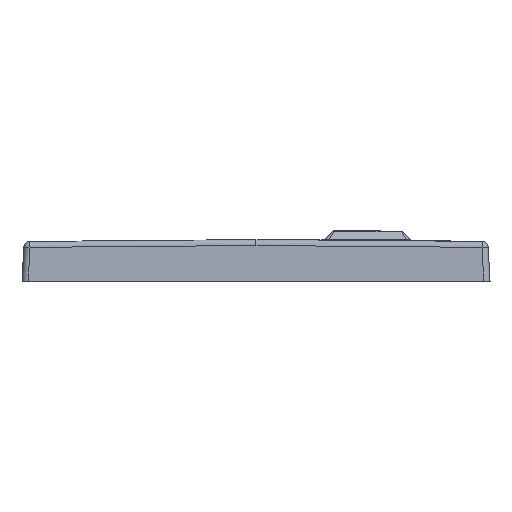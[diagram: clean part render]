
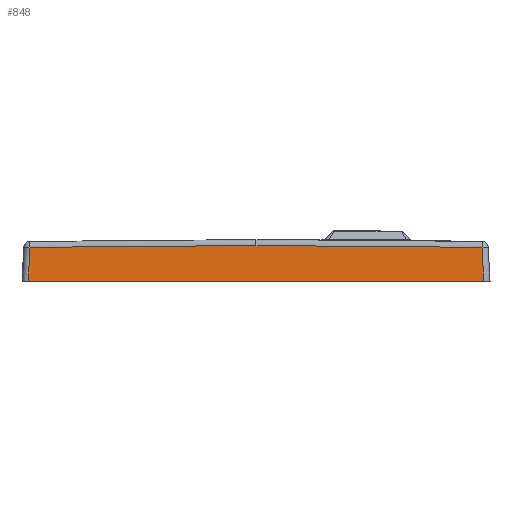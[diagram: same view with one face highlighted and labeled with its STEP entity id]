
A CAD part, left-side view. The second image highlights one B-rep face of the part: STEP entity #848.
In plain terms, the highlighted planar face has unit normal (-0.999, 0, 0.052).
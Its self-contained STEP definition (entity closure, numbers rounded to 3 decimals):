
#84 = VERTEX_POINT ( 'NONE', #3267 ) ;
#166 = EDGE_CURVE ( 'NONE', #4345, #1781, #1874, .T. ) ;
#288 = EDGE_CURVE ( 'NONE', #2720, #1755, #2706, .T. ) ;
#476 = CARTESIAN_POINT ( 'NONE',  ( -96.261, 67.352, -1.92 ) ) ;
#707 = CARTESIAN_POINT ( 'NONE',  ( -96.261, -5.651, -1.92 ) ) ;
#848 = ADVANCED_FACE ( 'NONE', ( #2254 ), #5123, .T. ) ;
#1016 = EDGE_CURVE ( 'NONE', #84, #2720, #5837, .T. ) ;
#1053 = ORIENTED_EDGE ( 'NONE', *, *, #5977, .T. ) ;
#1156 = CARTESIAN_POINT ( 'NONE',  ( -96.261, -78.653, -1.92 ) ) ;
#1381 = LINE ( 'NONE', #5122, #3268 ) ;
#1606 =( BOUNDED_CURVE ( )  B_SPLINE_CURVE ( 3, ( #2533, #5051, #3056, #4545 ),
 .UNSPECIFIED., .F., .T. ) 
 B_SPLINE_CURVE_WITH_KNOTS ( ( 4, 4 ),
 ( 0., 0.016 ),
 .UNSPECIFIED. ) 
 CURVE ( )  GEOMETRIC_REPRESENTATION_ITEM ( )  RATIONAL_B_SPLINE_CURVE ( ( 1., 1., 1., 1. ) ) 
 REPRESENTATION_ITEM ( '' )  );
#1733 = CARTESIAN_POINT ( 'NONE',  ( -95.692, -78.084, 8.946 ) ) ;
#1755 = VERTEX_POINT ( 'NONE', #1156 ) ;
#1781 = VERTEX_POINT ( 'NONE', #4538 ) ;
#1874 =( BOUNDED_CURVE ( )  B_SPLINE_CURVE ( 3, ( #3985, #4003, #4970, #2995 ),
 .UNSPECIFIED., .F., .F. ) 
 B_SPLINE_CURVE_WITH_KNOTS ( ( 4, 4 ),
 ( 6.267, 6.283 ),
 .UNSPECIFIED. ) 
 CURVE ( )  GEOMETRIC_REPRESENTATION_ITEM ( )  RATIONAL_B_SPLINE_CURVE ( ( 1., 1., 1., 1. ) ) 
 REPRESENTATION_ITEM ( '' )  );
#2192 = EDGE_LOOP ( 'NONE', ( #5186, #5695, #5857, #1053, #2756 ) ) ;
#2254 = FACE_OUTER_BOUND ( 'NONE', #2192, .T. ) ;
#2533 = CARTESIAN_POINT ( 'NONE',  ( -95.661, -5.651, 9.53 ) ) ;
#2628 = CARTESIAN_POINT ( 'NONE',  ( -96.261, -5.651, -1.92 ) ) ;
#2679 = DIRECTION ( 'NONE',  ( 0.052, 0., 0.999 ) ) ;
#2706 = LINE ( 'NONE', #707, #6262 ) ;
#2720 = VERTEX_POINT ( 'NONE', #476 ) ;
#2756 = ORIENTED_EDGE ( 'NONE', *, *, #1016, .T. ) ;
#2995 = CARTESIAN_POINT ( 'NONE',  ( -95.661, -5.651, 9.53 ) ) ;
#3056 = CARTESIAN_POINT ( 'NONE',  ( -95.671, 42.64, 9.335 ) ) ;
#3058 = DIRECTION ( 'NONE',  ( 0., -1., 0. ) ) ;
#3173 = DIRECTION ( 'NONE',  ( 0.052, 0.052, 0.997 ) ) ;
#3209 = VECTOR ( 'NONE', #4895, 1000. ) ;
#3267 = CARTESIAN_POINT ( 'NONE',  ( -95.692, 66.783, 8.946 ) ) ;
#3268 = VECTOR ( 'NONE', #3173, 1000. ) ;
#3985 = CARTESIAN_POINT ( 'NONE',  ( -95.692, -78.084, 8.946 ) ) ;
#4003 = CARTESIAN_POINT ( 'NONE',  ( -95.671, -53.941, 9.335 ) ) ;
#4345 = VERTEX_POINT ( 'NONE', #1733 ) ;
#4538 = CARTESIAN_POINT ( 'NONE',  ( -95.661, -5.651, 9.53 ) ) ;
#4545 = CARTESIAN_POINT ( 'NONE',  ( -95.692, 66.783, 8.946 ) ) ;
#4830 = CARTESIAN_POINT ( 'NONE',  ( -96.062, 67.153, 1.885 ) ) ;
#4895 = DIRECTION ( 'NONE',  ( -0.052, 0.052, -0.997 ) ) ;
#4970 = CARTESIAN_POINT ( 'NONE',  ( -95.661, -29.796, 9.53 ) ) ;
#5051 = CARTESIAN_POINT ( 'NONE',  ( -95.661, 18.495, 9.53 ) ) ;
#5122 = CARTESIAN_POINT ( 'NONE',  ( -96.062, -78.454, 1.885 ) ) ;
#5123 = PLANE ( 'NONE',  #5451 ) ;
#5186 = ORIENTED_EDGE ( 'NONE', *, *, #288, .T. ) ;
#5192 = EDGE_CURVE ( 'NONE', #1755, #4345, #1381, .T. ) ;
#5451 = AXIS2_PLACEMENT_3D ( 'NONE', #2628, #6084, #2679 ) ;
#5695 = ORIENTED_EDGE ( 'NONE', *, *, #5192, .T. ) ;
#5837 = LINE ( 'NONE', #4830, #3209 ) ;
#5857 = ORIENTED_EDGE ( 'NONE', *, *, #166, .T. ) ;
#5977 = EDGE_CURVE ( 'NONE', #1781, #84, #1606, .T. ) ;
#6084 = DIRECTION ( 'NONE',  ( -0.999, 0., 0.052 ) ) ;
#6262 = VECTOR ( 'NONE', #3058, 1000. ) ;
